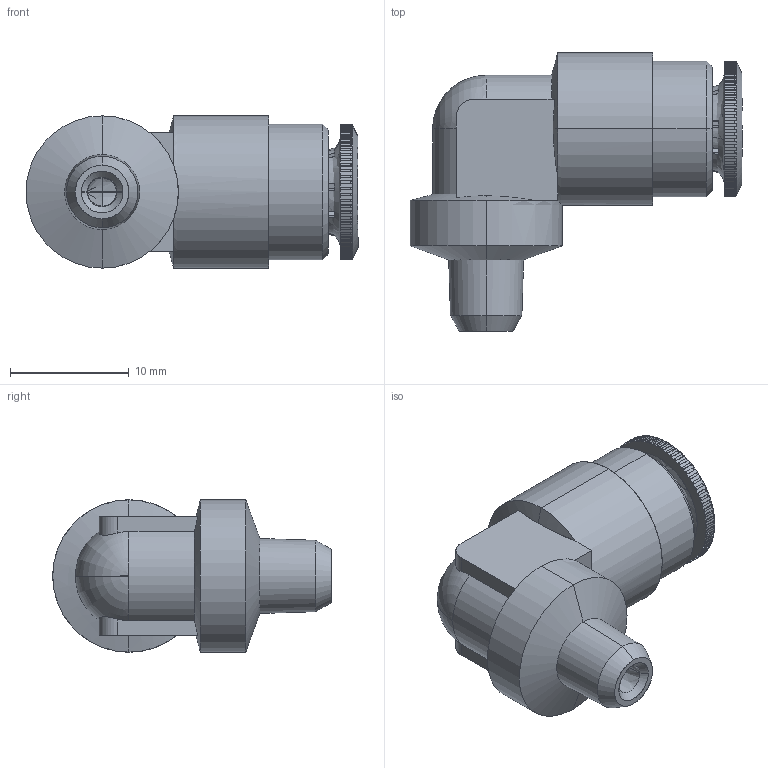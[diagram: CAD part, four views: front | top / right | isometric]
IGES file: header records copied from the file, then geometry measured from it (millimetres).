
Start section: SolidWorks IGES file using analytic representation for surfaces
Global section: file name: K:\Disegni Esecutivi\SERIE 58000\ASSIEMI\58100\58100_3D\5810000012A.igs; native system: SolidWorks 2016; preprocessor: SolidWorks 2016; author: cad01; date: 200221.092854; units: millimetre
Bounding box: 27.9 x 23.4 x 12.8 mm (x, y, z)
Surface area: 2204.1 mm2 (no closed solid volume)
Topology: 0 solids, 0 shells, 435 faces, 3329 edges, 3325 vertices
Faces by surface type: bspline 265, revolution 170
